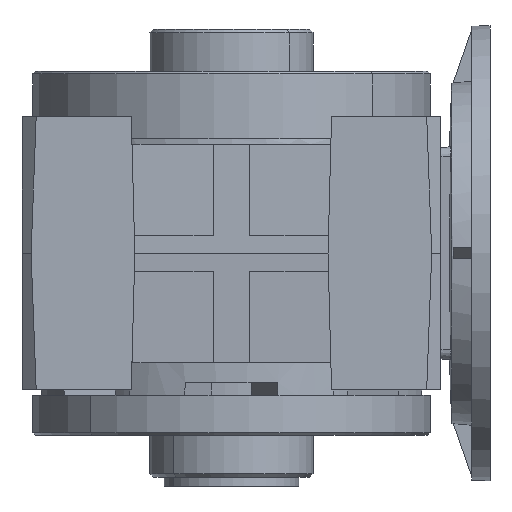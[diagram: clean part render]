
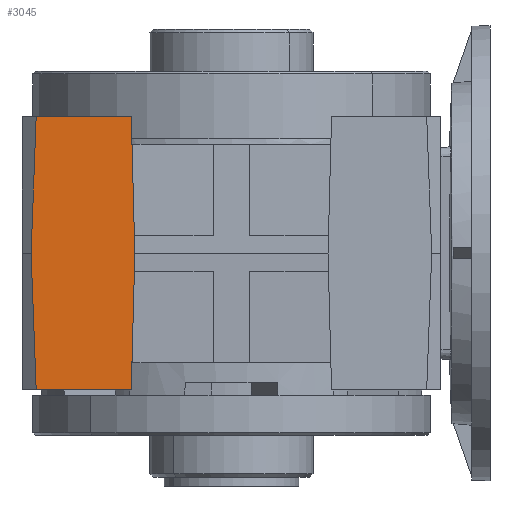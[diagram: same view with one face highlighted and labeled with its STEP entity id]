
A CAD part, front view. The second image highlights one B-rep face of the part: STEP entity #3045.
In plain terms, the highlighted planar face has unit normal (0, -1, 0).
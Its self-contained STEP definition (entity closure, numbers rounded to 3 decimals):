
#78 = DIRECTION ( 'NONE',  ( 0.026, 0., -1. ) ) ;
#83 = VERTEX_POINT ( 'NONE', #39498 ) ;
#277 = ORIENTED_EDGE ( 'NONE', *, *, #39350, .F. ) ;
#1017 = CARTESIAN_POINT ( 'NONE',  ( -55., -165., -75. ) ) ;
#2358 = EDGE_CURVE ( 'NONE', #8750, #39784, #15743, .T. ) ;
#2538 = VECTOR ( 'NONE', #24742, 1000. ) ;
#2876 = ORIENTED_EDGE ( 'NONE', *, *, #31094, .T. ) ;
#3045 = ADVANCED_FACE ( 'NONE', ( #8812 ), #21387, .T. ) ;
#3237 = EDGE_CURVE ( 'NONE', #39784, #24869, #38227, .T. ) ;
#3504 = CARTESIAN_POINT ( 'NONE',  ( -107.233, -165., -74.712 ) ) ;
#5499 = VECTOR ( 'NONE', #40098, 1000. ) ;
#6222 = CARTESIAN_POINT ( 'NONE',  ( -115., -165., 75. ) ) ;
#7434 = VERTEX_POINT ( 'NONE', #14988 ) ;
#8492 = EDGE_CURVE ( 'NONE', #83, #8750, #34429, .T. ) ;
#8750 = VERTEX_POINT ( 'NONE', #29967 ) ;
#8812 = FACE_OUTER_BOUND ( 'NONE', #28388, .T. ) ;
#8867 = VECTOR ( 'NONE', #37812, 1000. ) ;
#11501 = CARTESIAN_POINT ( 'NONE',  ( -115., -165., -75. ) ) ;
#12108 = DIRECTION ( 'NONE',  ( 0., -1., 0. ) ) ;
#13872 = VECTOR ( 'NONE', #23419, 1000. ) ;
#14988 = CARTESIAN_POINT ( 'NONE',  ( -110., -165., 0. ) ) ;
#15593 = LINE ( 'NONE', #11501, #5499 ) ;
#15743 = LINE ( 'NONE', #28304, #23282 ) ;
#17656 = LINE ( 'NONE', #31025, #8867 ) ;
#18504 = VERTEX_POINT ( 'NONE', #29059 ) ;
#18801 = DIRECTION ( 'NONE',  ( 1., 0., 0. ) ) ;
#21387 = PLANE ( 'NONE',  #37502 ) ;
#22603 = CARTESIAN_POINT ( 'NONE',  ( -55., -165., -75. ) ) ;
#23282 = VECTOR ( 'NONE', #78, 1000. ) ;
#23419 = DIRECTION ( 'NONE',  ( -0.026, 0., -1. ) ) ;
#23884 = ORIENTED_EDGE ( 'NONE', *, *, #8492, .F. ) ;
#24673 = DIRECTION ( 'NONE',  ( 0., 0., -1. ) ) ;
#24742 = DIRECTION ( 'NONE',  ( -0.037, 0., 0.999 ) ) ;
#24869 = VERTEX_POINT ( 'NONE', #1017 ) ;
#26606 = ORIENTED_EDGE ( 'NONE', *, *, #3237, .F. ) ;
#26616 = ORIENTED_EDGE ( 'NONE', *, *, #2358, .F. ) ;
#26775 = VECTOR ( 'NONE', #18801, 1000. ) ;
#28304 = CARTESIAN_POINT ( 'NONE',  ( -55., -165., 75. ) ) ;
#28388 = EDGE_LOOP ( 'NONE', ( #277, #2876, #26606, #26616, #23884, #34480 ) ) ;
#29059 = CARTESIAN_POINT ( 'NONE',  ( -107.223, -165., -75. ) ) ;
#29967 = CARTESIAN_POINT ( 'NONE',  ( -55., -165., 75. ) ) ;
#31025 = CARTESIAN_POINT ( 'NONE',  ( -112.78, -165., -75.082 ) ) ;
#31094 = EDGE_CURVE ( 'NONE', #18504, #24869, #15593, .T. ) ;
#31321 = LINE ( 'NONE', #3504, #2538 ) ;
#33228 = EDGE_CURVE ( 'NONE', #83, #7434, #17656, .T. ) ;
#33930 = CARTESIAN_POINT ( 'NONE',  ( -115., -165., -75. ) ) ;
#34429 = LINE ( 'NONE', #6222, #26775 ) ;
#34480 = ORIENTED_EDGE ( 'NONE', *, *, #33228, .T. ) ;
#35930 = CARTESIAN_POINT ( 'NONE',  ( -53.036, -165., 0. ) ) ;
#37502 = AXIS2_PLACEMENT_3D ( 'NONE', #33930, #12108, #24673 ) ;
#37812 = DIRECTION ( 'NONE',  ( -0.037, 0., -0.999 ) ) ;
#38227 = LINE ( 'NONE', #22603, #13872 ) ;
#39350 = EDGE_CURVE ( 'NONE', #18504, #7434, #31321, .T. ) ;
#39498 = CARTESIAN_POINT ( 'NONE',  ( -107.223, -165., 75. ) ) ;
#39784 = VERTEX_POINT ( 'NONE', #35930 ) ;
#40098 = DIRECTION ( 'NONE',  ( 1., 0., 0. ) ) ;
